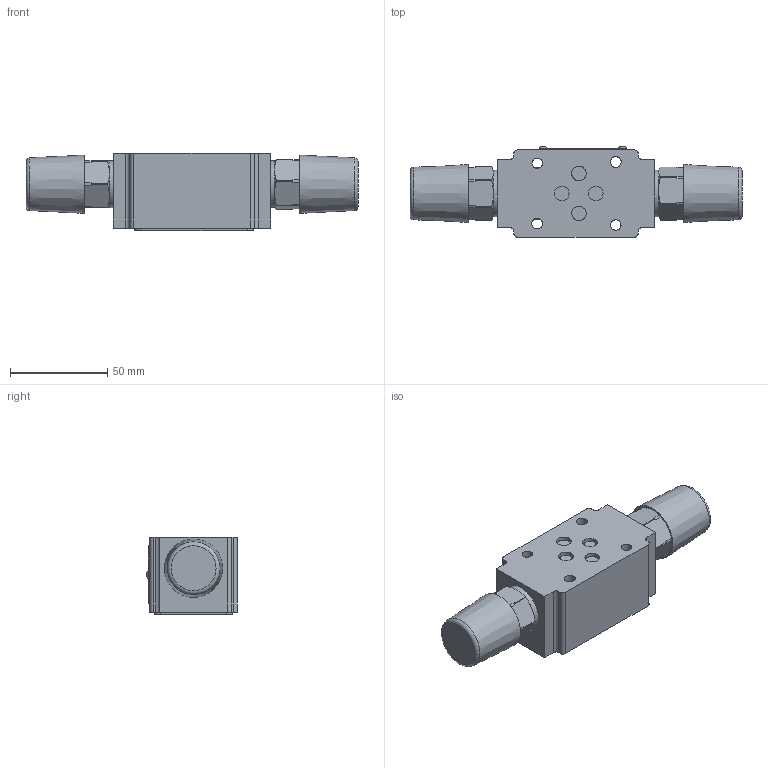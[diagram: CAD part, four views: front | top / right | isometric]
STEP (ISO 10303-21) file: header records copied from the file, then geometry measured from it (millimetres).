
FILE_DESCRIPTION(/* description */ (''),/* implementation_level */ '2;1');
FILE_NAME(/* name */ 'Z2FS6-2-4XJ-S2叠加式单向节流阀.prt.stp',/* time_stamp */ '2022-03-30T20:03:57+08:00',/* author */ (''),/* organization */ (''),/* preprocessor_version */ 'ST-DEVELOPER v16.7',/* originating_system */ 'SIEMENS PLM Software NX 12.0',/* authorisation */ '');
FILE_SCHEMA (('AUTOMOTIVE_DESIGN { 1 0 10303 214 3 1 1 1 }'));
Products named in the file (1): Z2FS6-2-4XJ-S2叠加式单向节流阀
Bounding box: 171 x 46.6 x 40 mm (x, y, z)
Volume: 166030.5 mm3; surface area: 52545.4 mm2
Topology: 42 solids, 52 shells, 968 faces, 2506 edges, 1647 vertices
Faces by surface type: plane 623, cylinder 193, cone 74, bspline 41, torus 14, extrusion 13, sphere 10
Full cylindrical faces by diameter (mm): 1.8 x4, 2.5 x2, 5.2 x2, 5.4 x2, 5.5 x4, 5.6 x2, 7.5 x6, 10 x2, 12.2 x4, 18.3 x2, 24 x2, 26.5 x2
Entity records: 65823 total; most frequent: CARTESIAN_POINT 42505, ORIENTED_EDGE 4774, DIRECTION 4317, EDGE_CURVE 2387, VECTOR 1677, LINE 1664, VERTEX_POINT 1622, AXIS2_PLACEMENT_3D 1320
